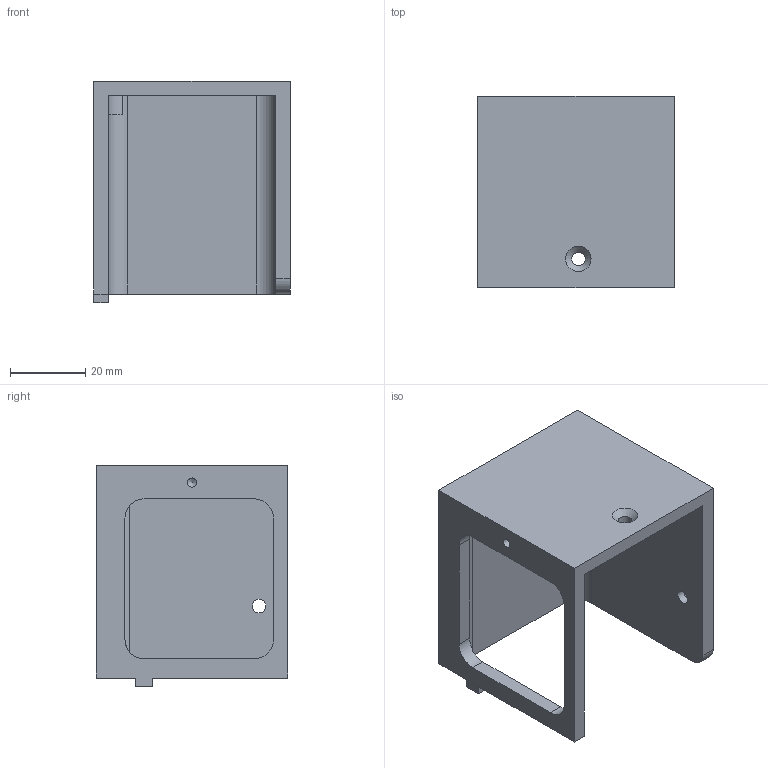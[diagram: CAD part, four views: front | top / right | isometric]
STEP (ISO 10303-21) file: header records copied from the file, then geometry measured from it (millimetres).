
FILE_DESCRIPTION(/* description */ (''),/* implementation_level */ '2;1');
FILE_NAME(/* name */ 'C:\Users\strothej\Documents\ActualDocuments\MicroscopeParts\TwoPhotonSystem\ScanningMechanics\v26\Drawings\Scan_Block_CRS_Galvo_Cover.stp',/* time_stamp */ '2017-05-16T17:04:37-07:00',/* author */ ('strothej'),/* organization */ (''),/* preprocessor_version */ 'ST-DEVELOPER v16.1',/* originating_system */ 'Autodesk Inventor 2016',/* authorisation */ '');
FILE_SCHEMA (('AUTOMOTIVE_DESIGN { 1 0 10303 214 3 1 1 }'));
Length unit declared in the file: inch
Products named in the file (1): Scan_Block_CRS_Galvo_Cover
Bounding box: 52.07 x 50.8 x 58.67 mm (x, y, z)
Volume: 33715.6 mm3; surface area: 19027 mm2
Topology: 1 solids, 1 shells, 35 faces, 101 edges, 67 vertices
Faces by surface type: plane 20, cylinder 12, cone 3
Full cylindrical faces by diameter (mm): 2.464 x1, 3.581 x2
Entity records: 1140 total; most frequent: CARTESIAN_POINT 202, DIRECTION 188, ORIENTED_EDGE 184, EDGE_CURVE 92, LINE 64, VECTOR 64, VERTEX_POINT 64, AXIS2_PLACEMENT_3D 62
